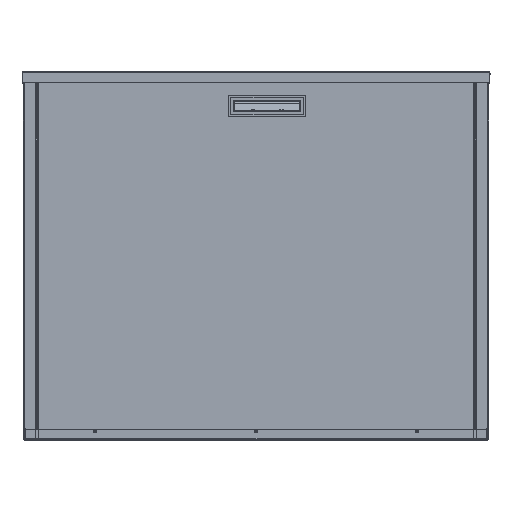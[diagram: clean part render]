
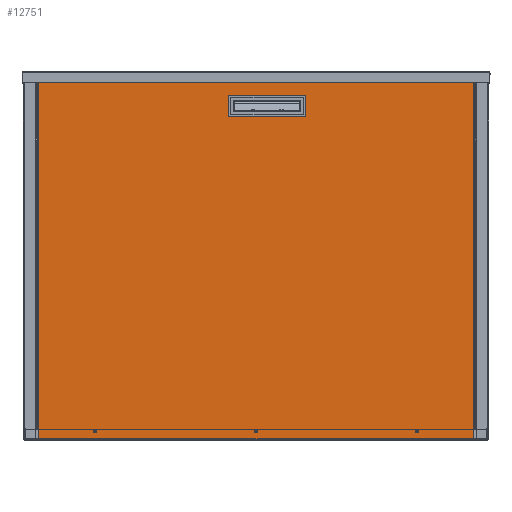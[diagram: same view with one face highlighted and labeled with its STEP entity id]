
A CAD part, top view. The second image highlights one B-rep face of the part: STEP entity #12751.
In plain terms, the highlighted planar face has unit normal (0, 0, -1).
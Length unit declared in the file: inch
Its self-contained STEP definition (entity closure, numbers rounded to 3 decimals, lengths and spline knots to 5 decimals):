
#766 = EDGE_CURVE ( 'NONE', #26766, #51989, #29941, .T. ) ;
#1199 = AXIS2_PLACEMENT_3D ( 'NONE', #63584, #28730, #69466 ) ;
#1640 = DIRECTION ( 'NONE',  ( 0., 1., 0. ) ) ;
#1673 = DIRECTION ( 'NONE',  ( -1., 0., 0. ) ) ;
#2244 = CARTESIAN_POINT ( 'NONE',  ( -25.9242, 5.11687, 0.038 ) ) ;
#3328 = AXIS2_PLACEMENT_3D ( 'NONE', #30117, #70871, #35947 ) ;
#4078 = CARTESIAN_POINT ( 'NONE',  ( -0.37888, 1.11687, 0.038 ) ) ;
#4538 = ORIENTED_EDGE ( 'NONE', *, *, #54359, .T. ) ;
#5048 = CARTESIAN_POINT ( 'NONE',  ( -25.8302, 5.11687, 0.038 ) ) ;
#5326 = VERTEX_POINT ( 'NONE', #31257 ) ;
#5632 = VERTEX_POINT ( 'NONE', #4078 ) ;
#5727 = CARTESIAN_POINT ( 'NONE',  ( -26.4505, 32.06487, 0.038 ) ) ;
#6369 = CARTESIAN_POINT ( 'NONE',  ( -26.0182, 5.11687, 0.038 ) ) ;
#6371 = EDGE_LOOP ( 'NONE', ( #36670, #71953 ) ) ;
#7435 = CARTESIAN_POINT ( 'NONE',  ( -2.12887, 13.19363, 0.038 ) ) ;
#7980 = ORIENTED_EDGE ( 'NONE', *, *, #33611, .T. ) ;
#8107 = DIRECTION ( 'NONE',  ( 1., 0., 0. ) ) ;
#8370 = FACE_BOUND ( 'NONE', #65298, .T. ) ;
#8546 = LINE ( 'NONE', #54373, #22157 ) ;
#8603 = VECTOR ( 'NONE', #67032, 39.37008 ) ;
#9614 = CARTESIAN_POINT ( 'NONE',  ( -0.332, 32.06487, 0.038 ) ) ;
#9747 = EDGE_CURVE ( 'NONE', #12781, #26766, #45861, .T. ) ;
#10727 = LINE ( 'NONE', #64850, #41592 ) ;
#11056 = VERTEX_POINT ( 'NONE', #39214 ) ;
#11727 = ORIENTED_EDGE ( 'NONE', *, *, #72856, .T. ) ;
#12013 = DIRECTION ( 'NONE',  ( -1., 0., 0. ) ) ;
#12751 = ADVANCED_FACE ( 'NONE', ( #23794, #54722, #68407, #8370, #39200 ), #24193, .T. ) ;
#12781 = VERTEX_POINT ( 'NONE', #39670 ) ;
#13167 = ORIENTED_EDGE ( 'NONE', *, *, #74202, .T. ) ;
#13660 = CARTESIAN_POINT ( 'NONE',  ( -3.35887, 13.19363, 0.038 ) ) ;
#14654 = EDGE_CURVE ( 'NONE', #18321, #11056, #61747, .T. ) ;
#14993 = VECTOR ( 'NONE', #1640, 39.37008 ) ;
#15262 = CARTESIAN_POINT ( 'NONE',  ( -25.9242, 16.59087, 0.038 ) ) ;
#16551 = DIRECTION ( 'NONE',  ( 0., 0., -1. ) ) ;
#17246 = VECTOR ( 'NONE', #74775, 39.37008 ) ;
#17822 = CARTESIAN_POINT ( 'NONE',  ( -3.35887, 18.39363, 0.038 ) ) ;
#18321 = VERTEX_POINT ( 'NONE', #37471 ) ;
#18681 = LINE ( 'NONE', #58341, #49607 ) ;
#18987 = DIRECTION ( 'NONE',  ( 1., 0., 0. ) ) ;
#19061 = CARTESIAN_POINT ( 'NONE',  ( -0.332, 1.07, 0.038 ) ) ;
#19669 = EDGE_CURVE ( 'NONE', #33542, #31927, #71874, .T. ) ;
#19789 = ORIENTED_EDGE ( 'NONE', *, *, #52795, .T. ) ;
#19812 = VERTEX_POINT ( 'NONE', #56615 ) ;
#20484 = CARTESIAN_POINT ( 'NONE',  ( -0.332, 1.11687, 0.038 ) ) ;
#21119 = DIRECTION ( 'NONE',  ( 1., 0., 0. ) ) ;
#22157 = VECTOR ( 'NONE', #66867, 39.37008 ) ;
#23040 = CIRCLE ( 'NONE', #73434, 0.094 ) ;
#23794 = FACE_OUTER_BOUND ( 'NONE', #61384, .T. ) ;
#23906 = DIRECTION ( 'NONE',  ( 0., 1., 0. ) ) ;
#24084 = EDGE_CURVE ( 'NONE', #73939, #5632, #18681, .T. ) ;
#24193 = PLANE ( 'NONE',  #33087 ) ;
#24917 = CARTESIAN_POINT ( 'NONE',  ( -26.0182, 28.06487, 0.038 ) ) ;
#26036 = ORIENTED_EDGE ( 'NONE', *, *, #59281, .T. ) ;
#26377 = CIRCLE ( 'NONE', #1199, 0.094 ) ;
#26580 = DIRECTION ( 'NONE',  ( 0., 0., 1. ) ) ;
#26682 = ORIENTED_EDGE ( 'NONE', *, *, #38399, .T. ) ;
#26766 = VERTEX_POINT ( 'NONE', #5727 ) ;
#27204 = VECTOR ( 'NONE', #58786, 39.37008 ) ;
#27299 = CARTESIAN_POINT ( 'NONE',  ( -26.4505, 1.07, 0.038 ) ) ;
#27597 = CARTESIAN_POINT ( 'NONE',  ( -0.37888, 32.06487, 0.038 ) ) ;
#28730 = DIRECTION ( 'NONE',  ( 0., 0., 1. ) ) ;
#29941 = LINE ( 'NONE', #9614, #17246 ) ;
#30117 = CARTESIAN_POINT ( 'NONE',  ( -25.9242, 28.06487, 0.038 ) ) ;
#30742 = CARTESIAN_POINT ( 'NONE',  ( -25.9242, 28.06487, 0.038 ) ) ;
#31257 = CARTESIAN_POINT ( 'NONE',  ( -2.12887, 18.39363, 0.038 ) ) ;
#31579 = CARTESIAN_POINT ( 'NONE',  ( -0.332, 32.06487, 0.038 ) ) ;
#31683 = EDGE_CURVE ( 'NONE', #62483, #36001, #26377, .T. ) ;
#31927 = VERTEX_POINT ( 'NONE', #7435 ) ;
#33087 = AXIS2_PLACEMENT_3D ( 'NONE', #19061, #16551, #12013 ) ;
#33542 = VERTEX_POINT ( 'NONE', #13660 ) ;
#33611 = EDGE_CURVE ( 'NONE', #5632, #55656, #54955, .T. ) ;
#35482 = ORIENTED_EDGE ( 'NONE', *, *, #63185, .T. ) ;
#35947 = DIRECTION ( 'NONE',  ( 1., 0., 0. ) ) ;
#36001 = VERTEX_POINT ( 'NONE', #5048 ) ;
#36578 = DIRECTION ( 'NONE',  ( 1., 0., 0. ) ) ;
#36670 = ORIENTED_EDGE ( 'NONE', *, *, #63842, .T. ) ;
#37159 = ORIENTED_EDGE ( 'NONE', *, *, #9747, .T. ) ;
#37471 = CARTESIAN_POINT ( 'NONE',  ( -26.0182, 16.59087, 0.038 ) ) ;
#38264 = CIRCLE ( 'NONE', #41301, 0.094 ) ;
#38354 = CARTESIAN_POINT ( 'NONE',  ( -25.66925, 32.06487, 0.038 ) ) ;
#38399 = EDGE_CURVE ( 'NONE', #54163, #33542, #69255, .T. ) ;
#39200 = FACE_BOUND ( 'NONE', #6371, .T. ) ;
#39214 = CARTESIAN_POINT ( 'NONE',  ( -25.8302, 16.59087, 0.038 ) ) ;
#39670 = CARTESIAN_POINT ( 'NONE',  ( -26.4505, 1.11687, 0.038 ) ) ;
#40055 = VECTOR ( 'NONE', #54587, 39.37008 ) ;
#41301 = AXIS2_PLACEMENT_3D ( 'NONE', #30742, #71528, #36578 ) ;
#41592 = VECTOR ( 'NONE', #23906, 39.37008 ) ;
#42854 = DIRECTION ( 'NONE',  ( 0., 0., 1. ) ) ;
#43507 = EDGE_LOOP ( 'NONE', ( #35482, #69260, #26682, #47392 ) ) ;
#44842 = LINE ( 'NONE', #65503, #58548 ) ;
#45861 = LINE ( 'NONE', #27299, #14993 ) ;
#46166 = LINE ( 'NONE', #31579, #61710 ) ;
#47392 = ORIENTED_EDGE ( 'NONE', *, *, #19669, .T. ) ;
#49607 = VECTOR ( 'NONE', #70192, 39.37008 ) ;
#49701 = CARTESIAN_POINT ( 'NONE',  ( -25.9242, 16.59087, 0.038 ) ) ;
#51989 = VERTEX_POINT ( 'NONE', #38354 ) ;
#52795 = EDGE_CURVE ( 'NONE', #19812, #67388, #61578, .T. ) ;
#54163 = VERTEX_POINT ( 'NONE', #17822 ) ;
#54359 = EDGE_CURVE ( 'NONE', #11056, #18321, #23040, .T. ) ;
#54373 = CARTESIAN_POINT ( 'NONE',  ( -0.332, 18.39363, 0.038 ) ) ;
#54587 = DIRECTION ( 'NONE',  ( 0., -1., 0. ) ) ;
#54722 = FACE_BOUND ( 'NONE', #43507, .T. ) ;
#54955 = LINE ( 'NONE', #20484, #8603 ) ;
#55108 = CARTESIAN_POINT ( 'NONE',  ( -3.35887, 1.07, 0.038 ) ) ;
#55331 = AXIS2_PLACEMENT_3D ( 'NONE', #2244, #42854, #8107 ) ;
#55656 = VERTEX_POINT ( 'NONE', #72358 ) ;
#55938 = DIRECTION ( 'NONE',  ( 0., 0., 1. ) ) ;
#56615 = CARTESIAN_POINT ( 'NONE',  ( -25.8302, 28.06487, 0.038 ) ) ;
#57246 = ORIENTED_EDGE ( 'NONE', *, *, #14654, .T. ) ;
#58341 = CARTESIAN_POINT ( 'NONE',  ( -0.37888, 1.07, 0.038 ) ) ;
#58548 = VECTOR ( 'NONE', #1673, 39.37008 ) ;
#58786 = DIRECTION ( 'NONE',  ( 1., 0., 0. ) ) ;
#58873 = CARTESIAN_POINT ( 'NONE',  ( -0.332, 13.19363, 0.038 ) ) ;
#59281 = EDGE_CURVE ( 'NONE', #51989, #73939, #46166, .T. ) ;
#61384 = EDGE_LOOP ( 'NONE', ( #61610, #26036, #65018, #7980, #13167, #37159 ) ) ;
#61578 = CIRCLE ( 'NONE', #3328, 0.094 ) ;
#61610 = ORIENTED_EDGE ( 'NONE', *, *, #766, .T. ) ;
#61710 = VECTOR ( 'NONE', #66492, 39.37008 ) ;
#61747 = CIRCLE ( 'NONE', #72416, 0.094 ) ;
#62483 = VERTEX_POINT ( 'NONE', #6369 ) ;
#63185 = EDGE_CURVE ( 'NONE', #31927, #5326, #10727, .T. ) ;
#63584 = CARTESIAN_POINT ( 'NONE',  ( -25.9242, 5.11687, 0.038 ) ) ;
#63842 = EDGE_CURVE ( 'NONE', #36001, #62483, #70888, .T. ) ;
#64850 = CARTESIAN_POINT ( 'NONE',  ( -2.12887, 1.07, 0.038 ) ) ;
#65018 = ORIENTED_EDGE ( 'NONE', *, *, #24084, .T. ) ;
#65298 = EDGE_LOOP ( 'NONE', ( #4538, #57246 ) ) ;
#65503 = CARTESIAN_POINT ( 'NONE',  ( -0.332, 1.11687, 0.038 ) ) ;
#66492 = DIRECTION ( 'NONE',  ( 1., 0., 0. ) ) ;
#66867 = DIRECTION ( 'NONE',  ( -1., 0., 0. ) ) ;
#67032 = DIRECTION ( 'NONE',  ( -1., 0., 0. ) ) ;
#67295 = EDGE_LOOP ( 'NONE', ( #19789, #11727 ) ) ;
#67388 = VERTEX_POINT ( 'NONE', #24917 ) ;
#67778 = EDGE_CURVE ( 'NONE', #5326, #54163, #8546, .T. ) ;
#68407 = FACE_BOUND ( 'NONE', #67295, .T. ) ;
#69255 = LINE ( 'NONE', #55108, #40055 ) ;
#69260 = ORIENTED_EDGE ( 'NONE', *, *, #67778, .T. ) ;
#69466 = DIRECTION ( 'NONE',  ( 1., 0., 0. ) ) ;
#70192 = DIRECTION ( 'NONE',  ( 0., -1., 0. ) ) ;
#70871 = DIRECTION ( 'NONE',  ( 0., 0., 1. ) ) ;
#70888 = CIRCLE ( 'NONE', #55331, 0.094 ) ;
#71528 = DIRECTION ( 'NONE',  ( 0., 0., 1. ) ) ;
#71874 = LINE ( 'NONE', #58873, #27204 ) ;
#71953 = ORIENTED_EDGE ( 'NONE', *, *, #31683, .T. ) ;
#72358 = CARTESIAN_POINT ( 'NONE',  ( -25.66925, 1.11687, 0.038 ) ) ;
#72416 = AXIS2_PLACEMENT_3D ( 'NONE', #49701, #26580, #18987 ) ;
#72856 = EDGE_CURVE ( 'NONE', #67388, #19812, #38264, .T. ) ;
#73434 = AXIS2_PLACEMENT_3D ( 'NONE', #15262, #55938, #21119 ) ;
#73939 = VERTEX_POINT ( 'NONE', #27597 ) ;
#74202 = EDGE_CURVE ( 'NONE', #55656, #12781, #44842, .T. ) ;
#74775 = DIRECTION ( 'NONE',  ( 1., 0., 0. ) ) ;
